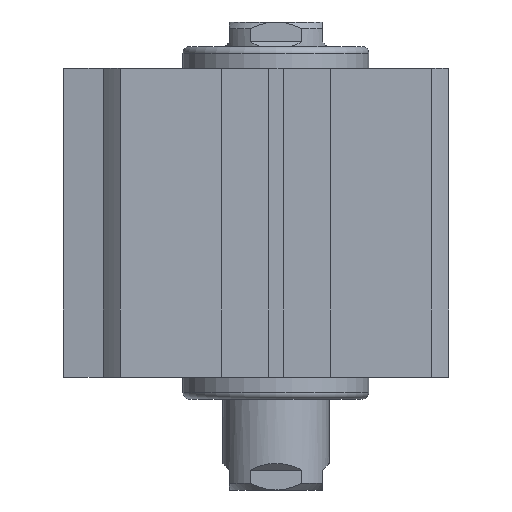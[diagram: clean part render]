
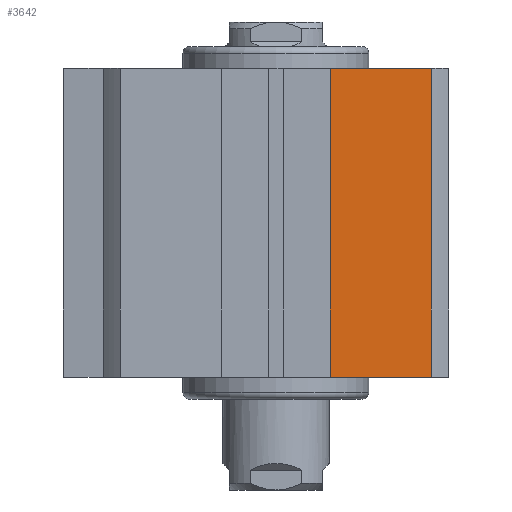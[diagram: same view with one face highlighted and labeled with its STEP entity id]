
A CAD part, left-side view. The second image highlights one B-rep face of the part: STEP entity #3642.
In plain terms, the highlighted planar face has unit normal (-1, 0, 0).
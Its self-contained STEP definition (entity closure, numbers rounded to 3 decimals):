
#661=CARTESIAN_POINT('',(-25.402,-21.876,0.0));
#662=VERTEX_POINT('',#661);
#672=CARTESIAN_POINT('',(-25.402,-6.645,0.0));
#673=VERTEX_POINT('',#672);
#674=CARTESIAN_POINT('',(-25.402,-6.645,0.0));
#675=DIRECTION('',(0.0,-1.0,0.0));
#676=VECTOR('',#675,15.231);
#677=LINE('',#674,#676);
#678=EDGE_CURVE('',#673,#662,#677,.T.);
#1338=CARTESIAN_POINT('',(-25.402,-21.876,46.5));
#1339=VERTEX_POINT('',#1338);
#1340=CARTESIAN_POINT('',(-25.402,-6.645,46.5));
#1341=VERTEX_POINT('',#1340);
#1342=CARTESIAN_POINT('',(-25.402,-21.876,46.5));
#1343=DIRECTION('',(0.0,1.0,0.0));
#1344=VECTOR('',#1343,15.231);
#1345=LINE('',#1342,#1344);
#1346=EDGE_CURVE('',#1339,#1341,#1345,.T.);
#3621=CARTESIAN_POINT('',(-25.402,-21.876,0.0));
#3622=DIRECTION('',(-1.0,0.0,0.0));
#3623=DIRECTION('',(0.0,0.0,1.0));
#3624=AXIS2_PLACEMENT_3D('',#3621,#3622,#3623);
#3625=PLANE('',#3624);
#3626=ORIENTED_EDGE('',*,*,#1346,.T.);
#3627=CARTESIAN_POINT('',(-25.402,-6.645,0.0));
#3628=DIRECTION('',(0.0,0.0,1.0));
#3629=VECTOR('',#3628,46.5);
#3630=LINE('',#3627,#3629);
#3631=EDGE_CURVE('',#673,#1341,#3630,.T.);
#3632=ORIENTED_EDGE('',*,*,#3631,.F.);
#3633=ORIENTED_EDGE('',*,*,#678,.T.);
#3634=CARTESIAN_POINT('',(-25.402,-21.876,0.0));
#3635=DIRECTION('',(0.0,0.0,1.0));
#3636=VECTOR('',#3635,46.5);
#3637=LINE('',#3634,#3636);
#3638=EDGE_CURVE('',#662,#1339,#3637,.T.);
#3639=ORIENTED_EDGE('',*,*,#3638,.T.);
#3640=EDGE_LOOP('',(#3626,#3632,#3633,#3639));
#3641=FACE_OUTER_BOUND('',#3640,.T.);
#3642=ADVANCED_FACE('',(#3641),#3625,.T.);
